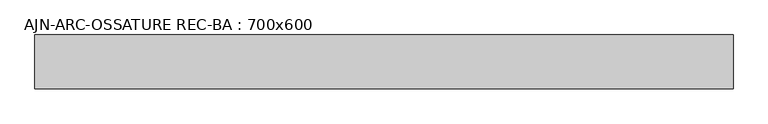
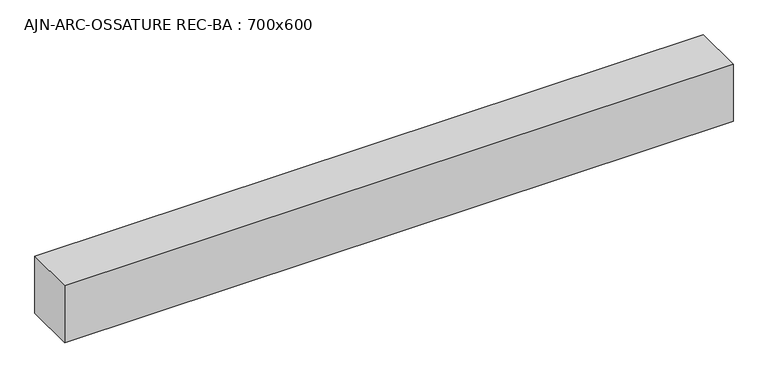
"""IFC4 building model written with IfcOpenShell, lengths in millimetres: beam geometry, AJN-ARC-OSSATURE REC-BA : 700x600."""

from ifc_helpers import new_model, si_unit, frame, origin, place, context, project, spatial, polyline, outline, extrude, source, transform, mapped, element, save


def ajn_arc_ossature_rec_ba_700x600_2a036d11(model_context):
    return source(origin(), model_context, "Body", "SweptSolid", [
        extrude(outline(polyline([(3737.3, 300.0), (3737.3, -300.0), (-4037.2999994, -300.0), (-4037.2999994, 300.0), (3737.3, 300.0)])), frame((0.0, 0.0, -350.0), z_axis=(0.0, 0.0, 1.0), x_axis=(1.0, 0.0, 0.0)), (0.0, 0.0, 1.0), 700.0),
    ])


if __name__ == "__main__":
    model = new_model("IFC4")
    model_context = context("Model", 3, world=origin())
    ifc_project = project(units=[si_unit("LENGTHUNIT", "METRE", prefix="MILLI")], contexts=[model_context])
    site = spatial("IfcSite", under=ifc_project)
    building = spatial("IfcBuilding", under=site)
    placement = place(None, origin())
    ajn_arc_ossature_rec_ba_700x600_shape = ajn_arc_ossature_rec_ba_700x600_2a036d11(model_context)
    element("IfcBeam", 1, ObjectType="AJN-ARC-OSSATURE REC-BA : 700x600", at=placement, inside=building, context=model_context, shape_type="MappedRepresentation", body=[
        mapped(ajn_arc_ossature_rec_ba_700x600_shape, transform((0.0, 0.0, 0.0), x_axis=(1.0, 0.0, 0.0), y_axis=(0.0, 1.0, 0.0), z_axis=(0.0, 0.0, 1.0))),
    ])
    save(model, "model.ifc")
